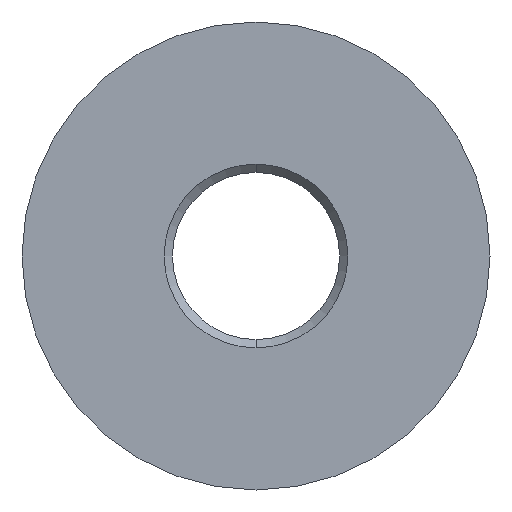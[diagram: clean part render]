
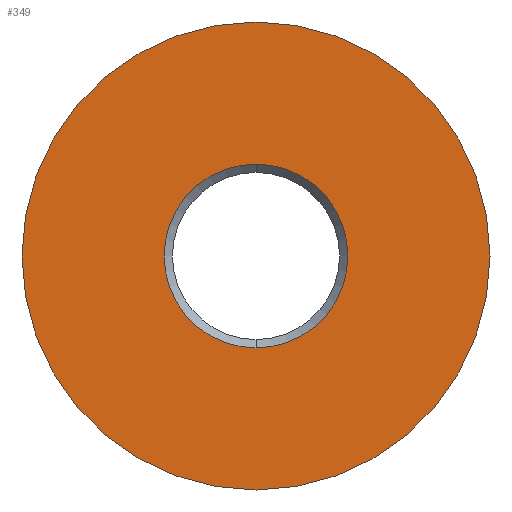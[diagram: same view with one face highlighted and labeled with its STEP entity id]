
A CAD part, front view. The second image highlights one B-rep face of the part: STEP entity #349.
In plain terms, the highlighted planar face has unit normal (0, -1, 0).
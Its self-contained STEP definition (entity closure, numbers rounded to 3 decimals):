
#18 = DIRECTION ( 'NONE',  ( 0., -1., 0. ) ) ;
#20 = CARTESIAN_POINT ( 'NONE',  ( 0., -5., 0. ) ) ;
#28 = DIRECTION ( 'NONE',  ( 0., -1., 0. ) ) ;
#38 = VERTEX_POINT ( 'NONE', #129 ) ;
#42 = EDGE_CURVE ( 'NONE', #289, #38, #203, .T. ) ;
#48 = ORIENTED_EDGE ( 'NONE', *, *, #120, .F. ) ;
#50 = CARTESIAN_POINT ( 'NONE',  ( 0., -5., 0. ) ) ;
#73 = DIRECTION ( 'NONE',  ( 0., 0., -1. ) ) ;
#76 = DIRECTION ( 'NONE',  ( 0., -1., 0. ) ) ;
#79 = ORIENTED_EDGE ( 'NONE', *, *, #168, .T. ) ;
#104 = DIRECTION ( 'NONE',  ( 0., 0., -1. ) ) ;
#113 = DIRECTION ( 'NONE',  ( 0., 0., -1. ) ) ;
#117 = CIRCLE ( 'NONE', #292, 7. ) ;
#120 = EDGE_CURVE ( 'NONE', #38, #289, #271, .T. ) ;
#127 = EDGE_LOOP ( 'NONE', ( #274, #48 ) ) ;
#129 = CARTESIAN_POINT ( 'NONE',  ( 0., -5., 2.75 ) ) ;
#148 = EDGE_LOOP ( 'NONE', ( #79, #222 ) ) ;
#157 = AXIS2_PLACEMENT_3D ( 'NONE', #50, #28, #73 ) ;
#160 = FACE_OUTER_BOUND ( 'NONE', #148, .T. ) ;
#168 = EDGE_CURVE ( 'NONE', #287, #262, #281, .T. ) ;
#172 = EDGE_CURVE ( 'NONE', #262, #287, #117, .T. ) ;
#180 = CARTESIAN_POINT ( 'NONE',  ( 0., -5., 0. ) ) ;
#199 = DIRECTION ( 'NONE',  ( 0., 0., 1. ) ) ;
#200 = DIRECTION ( 'NONE',  ( 0., 1., 0. ) ) ;
#201 = CARTESIAN_POINT ( 'NONE',  ( -2.75, -5., 0. ) ) ;
#203 = CIRCLE ( 'NONE', #157, 2.75 ) ;
#208 = PLANE ( 'NONE',  #328 ) ;
#218 = CARTESIAN_POINT ( 'NONE',  ( 0., -5., -2.75 ) ) ;
#222 = ORIENTED_EDGE ( 'NONE', *, *, #172, .T. ) ;
#227 = CARTESIAN_POINT ( 'NONE',  ( 0., -5., -7. ) ) ;
#244 = DIRECTION ( 'NONE',  ( 0., -1., 0. ) ) ;
#259 = CARTESIAN_POINT ( 'NONE',  ( 0., -5., 7. ) ) ;
#262 = VERTEX_POINT ( 'NONE', #259 ) ;
#271 = CIRCLE ( 'NONE', #273, 2.75 ) ;
#273 = AXIS2_PLACEMENT_3D ( 'NONE', #326, #18, #113 ) ;
#274 = ORIENTED_EDGE ( 'NONE', *, *, #42, .F. ) ;
#281 = CIRCLE ( 'NONE', #288, 7. ) ;
#287 = VERTEX_POINT ( 'NONE', #227 ) ;
#288 = AXIS2_PLACEMENT_3D ( 'NONE', #180, #244, #104 ) ;
#289 = VERTEX_POINT ( 'NONE', #218 ) ;
#292 = AXIS2_PLACEMENT_3D ( 'NONE', #20, #76, #382 ) ;
#313 = FACE_BOUND ( 'NONE', #127, .T. ) ;
#326 = CARTESIAN_POINT ( 'NONE',  ( 0., -5., 0. ) ) ;
#328 = AXIS2_PLACEMENT_3D ( 'NONE', #201, #200, #199 ) ;
#349 = ADVANCED_FACE ( 'NONE', ( #313, #160 ), #208, .F. ) ;
#382 = DIRECTION ( 'NONE',  ( 0., 0., -1. ) ) ;
